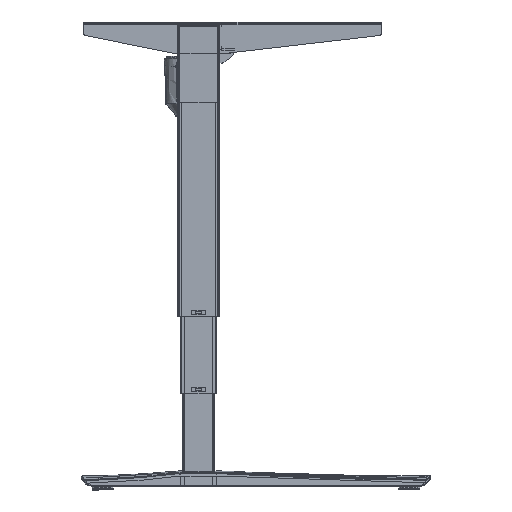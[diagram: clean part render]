
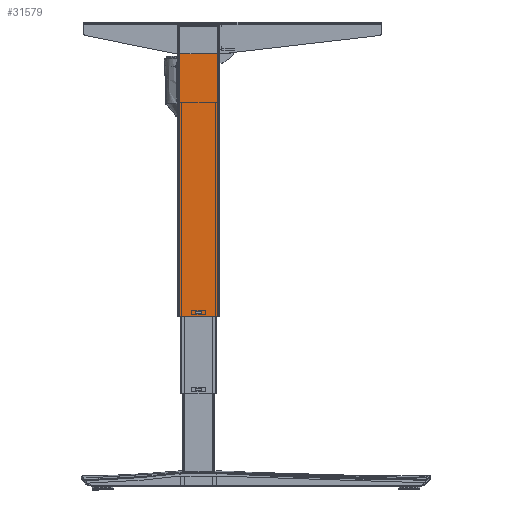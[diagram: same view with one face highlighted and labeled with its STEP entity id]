
A CAD part, left-side view. The second image highlights one B-rep face of the part: STEP entity #31579.
In plain terms, the highlighted planar face has unit normal (-1, 0, 0).
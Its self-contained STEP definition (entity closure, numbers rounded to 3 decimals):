
#450 = CARTESIAN_POINT ( 'NONE',  ( -30., 6., 6. ) ) ;
#844 = CARTESIAN_POINT ( 'NONE',  ( -30., -37., 0. ) ) ;
#1557 = ORIENTED_EDGE ( 'NONE', *, *, #31722, .F. ) ;
#1666 = VERTEX_POINT ( 'NONE', #27884 ) ;
#2034 = ORIENTED_EDGE ( 'NONE', *, *, #99598, .T. ) ;
#3126 = LINE ( 'NONE', #44391, #95887 ) ;
#5008 = EDGE_CURVE ( 'NONE', #17838, #82087, #69759, .T. ) ;
#8890 = LINE ( 'NONE', #49072, #77570 ) ;
#9372 = VERTEX_POINT ( 'NONE', #30284 ) ;
#14228 = CARTESIAN_POINT ( 'NONE',  ( -30., 6., 6. ) ) ;
#17010 = EDGE_CURVE ( 'NONE', #81820, #1666, #3126, .T. ) ;
#17276 = ORIENTED_EDGE ( 'NONE', *, *, #5008, .F. ) ;
#17838 = VERTEX_POINT ( 'NONE', #78590 ) ;
#19432 = ORIENTED_EDGE ( 'NONE', *, *, #82224, .T. ) ;
#22486 = AXIS2_PLACEMENT_3D ( 'NONE', #28583, #98061, #52610 ) ;
#25519 = ORIENTED_EDGE ( 'NONE', *, *, #17010, .T. ) ;
#27884 = CARTESIAN_POINT ( 'NONE',  ( -30., -6., 10. ) ) ;
#28360 = EDGE_CURVE ( 'NONE', #36821, #9372, #29065, .T. ) ;
#28583 = CARTESIAN_POINT ( 'NONE',  ( -30., 37., 561. ) ) ;
#29065 = LINE ( 'NONE', #92327, #93053 ) ;
#30284 = CARTESIAN_POINT ( 'NONE',  ( -30., 37., 0. ) ) ;
#31579 = ADVANCED_FACE ( 'NONE', ( #48156, #43317 ), #36696, .F. ) ;
#31722 = EDGE_CURVE ( 'NONE', #36821, #17838, #86780, .T. ) ;
#35489 = EDGE_CURVE ( 'NONE', #1666, #42858, #42929, .T. ) ;
#35853 = LINE ( 'NONE', #14228, #76874 ) ;
#36696 = PLANE ( 'NONE',  #22486 ) ;
#36821 = VERTEX_POINT ( 'NONE', #99468 ) ;
#38695 = CARTESIAN_POINT ( 'NONE',  ( -30., 40., 556. ) ) ;
#42858 = VERTEX_POINT ( 'NONE', #50268 ) ;
#42875 = CARTESIAN_POINT ( 'NONE',  ( -30., -6., 10. ) ) ;
#42929 = LINE ( 'NONE', #42875, #44200 ) ;
#43317 = FACE_OUTER_BOUND ( 'NONE', #76141, .T. ) ;
#43884 = CARTESIAN_POINT ( 'NONE',  ( -30., -37., 561. ) ) ;
#44200 = VECTOR ( 'NONE', #82009, 1000. ) ;
#44391 = CARTESIAN_POINT ( 'NONE',  ( -30., 6., 10. ) ) ;
#48156 = FACE_BOUND ( 'NONE', #89349, .T. ) ;
#49072 = CARTESIAN_POINT ( 'NONE',  ( -30., 37., 0. ) ) ;
#50268 = CARTESIAN_POINT ( 'NONE',  ( -30., -6., 6. ) ) ;
#52610 = DIRECTION ( 'NONE',  ( 0., 1., 0. ) ) ;
#52969 = DIRECTION ( 'NONE',  ( 0., 0., -1. ) ) ;
#55480 = CARTESIAN_POINT ( 'NONE',  ( -30., 6., 10. ) ) ;
#67284 = ORIENTED_EDGE ( 'NONE', *, *, #35489, .T. ) ;
#68112 = DIRECTION ( 'NONE',  ( 0., 1., 0. ) ) ;
#69759 = LINE ( 'NONE', #43884, #78166 ) ;
#75455 = DIRECTION ( 'NONE',  ( 0., 0., 1. ) ) ;
#76141 = EDGE_LOOP ( 'NONE', ( #17276, #1557, #98069, #2034 ) ) ;
#76874 = VECTOR ( 'NONE', #68112, 1000. ) ;
#77570 = VECTOR ( 'NONE', #94581, 1000. ) ;
#77839 = EDGE_CURVE ( 'NONE', #84890, #81820, #84614, .T. ) ;
#78166 = VECTOR ( 'NONE', #90105, 1000. ) ;
#78590 = CARTESIAN_POINT ( 'NONE',  ( -30., -37., 556. ) ) ;
#81820 = VERTEX_POINT ( 'NONE', #55480 ) ;
#82009 = DIRECTION ( 'NONE',  ( 0., 0., -1. ) ) ;
#82087 = VERTEX_POINT ( 'NONE', #844 ) ;
#82224 = EDGE_CURVE ( 'NONE', #42858, #84890, #35853, .T. ) ;
#83163 = DIRECTION ( 'NONE',  ( 0., -1., 0. ) ) ;
#83185 = VECTOR ( 'NONE', #93309, 1000. ) ;
#84614 = LINE ( 'NONE', #98691, #95451 ) ;
#84890 = VERTEX_POINT ( 'NONE', #450 ) ;
#86780 = LINE ( 'NONE', #38695, #83185 ) ;
#88428 = ORIENTED_EDGE ( 'NONE', *, *, #77839, .T. ) ;
#89349 = EDGE_LOOP ( 'NONE', ( #88428, #25519, #67284, #19432 ) ) ;
#90105 = DIRECTION ( 'NONE',  ( 0., 0., -1. ) ) ;
#92327 = CARTESIAN_POINT ( 'NONE',  ( -30., 37., 561. ) ) ;
#93053 = VECTOR ( 'NONE', #52969, 1000. ) ;
#93309 = DIRECTION ( 'NONE',  ( 0., -1., 0. ) ) ;
#94581 = DIRECTION ( 'NONE',  ( 0., -1., 0. ) ) ;
#95451 = VECTOR ( 'NONE', #75455, 1000. ) ;
#95887 = VECTOR ( 'NONE', #83163, 1000. ) ;
#98061 = DIRECTION ( 'NONE',  ( 1., 0., 0. ) ) ;
#98069 = ORIENTED_EDGE ( 'NONE', *, *, #28360, .T. ) ;
#98691 = CARTESIAN_POINT ( 'NONE',  ( -30., 6., 10. ) ) ;
#99468 = CARTESIAN_POINT ( 'NONE',  ( -30., 37., 556. ) ) ;
#99598 = EDGE_CURVE ( 'NONE', #9372, #82087, #8890, .T. ) ;
